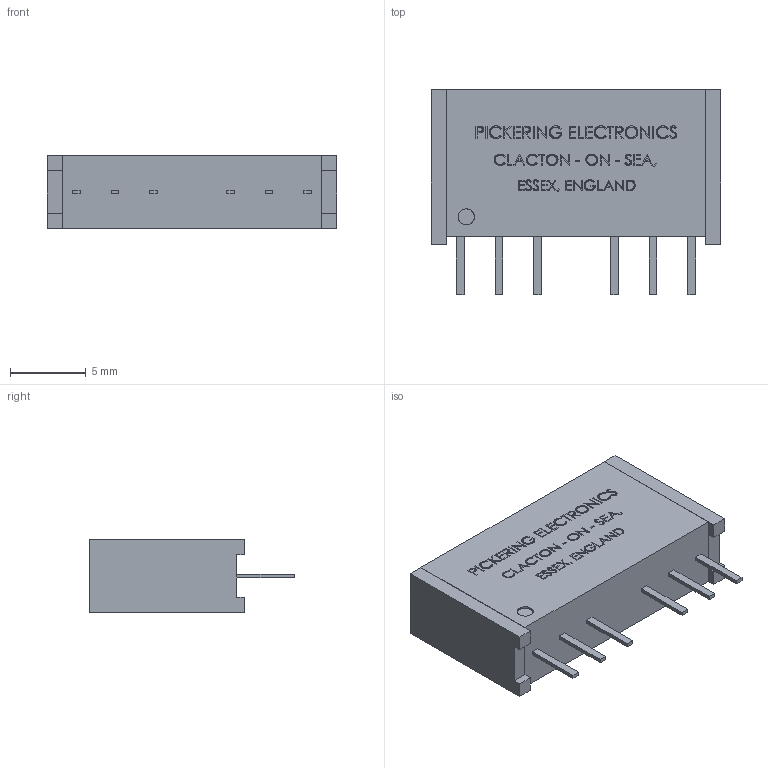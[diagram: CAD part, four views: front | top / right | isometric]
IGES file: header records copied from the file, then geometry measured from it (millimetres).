
Start section: SolidWorks IGES file using analytic representation for surfaces
Global section: file name: T:\Relays in Solidworks\Batch 5\107-2-A-x-xx.IGS; native system: SolidWorks 2009; preprocessor: SolidWorks 2009; author: alex.leming; date: 100630.140912; units: millimetre
Bounding box: 19.1 x 13.5 x 4.8 mm (x, y, z)
Surface area: 905 mm2 (no closed solid volume)
Topology: 0 solids, 0 shells, 1002 faces, 8281 edges, 8281 vertices
Faces by surface type: bspline 1000, revolution 2
